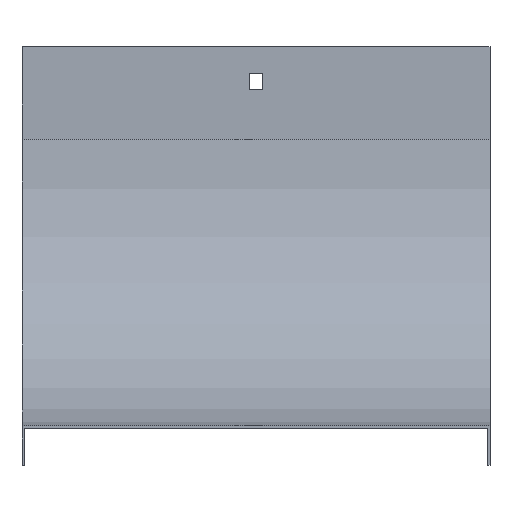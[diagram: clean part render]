
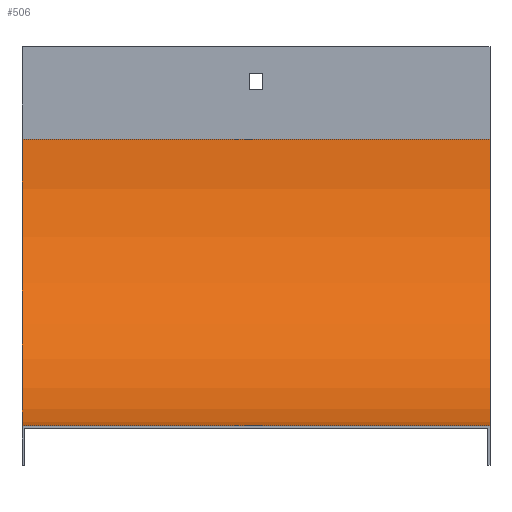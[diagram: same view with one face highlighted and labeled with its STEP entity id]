
A CAD part, top view. The second image highlights one B-rep face of the part: STEP entity #506.
In plain terms, the highlighted cylindrical face has radius 124 mm (diameter 248 mm), a partial arc.
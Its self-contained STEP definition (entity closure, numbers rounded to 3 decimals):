
#7 = ORIENTED_EDGE ( 'NONE', *, *, #377, .F. ) ;
#9 = LINE ( 'NONE', #61, #819 ) ;
#40 = CARTESIAN_POINT ( 'NONE',  ( 101., 124., -40. ) ) ;
#43 = DIRECTION ( 'NONE',  ( 0., 0., -1. ) ) ;
#61 = CARTESIAN_POINT ( 'NONE',  ( 101., 0., -40. ) ) ;
#78 = DIRECTION ( 'NONE',  ( -1., 0., 0. ) ) ;
#103 = EDGE_CURVE ( 'NONE', #298, #843, #675, .T. ) ;
#107 = VERTEX_POINT ( 'NONE', #347 ) ;
#187 = VERTEX_POINT ( 'NONE', #578 ) ;
#203 = EDGE_CURVE ( 'NONE', #298, #107, #621, .T. ) ;
#266 = DIRECTION ( 'NONE',  ( 0., 0., -1. ) ) ;
#270 = DIRECTION ( 'NONE',  ( -1., 0., 0. ) ) ;
#288 = CARTESIAN_POINT ( 'NONE',  ( -101., 124., -164. ) ) ;
#298 = VERTEX_POINT ( 'NONE', #339 ) ;
#335 = ORIENTED_EDGE ( 'NONE', *, *, #659, .T. ) ;
#339 = CARTESIAN_POINT ( 'NONE',  ( 101., 124., -164. ) ) ;
#347 = CARTESIAN_POINT ( 'NONE',  ( 101., 0., -40. ) ) ;
#348 = ORIENTED_EDGE ( 'NONE', *, *, #103, .T. ) ;
#377 = EDGE_CURVE ( 'NONE', #107, #187, #9, .T. ) ;
#397 = CARTESIAN_POINT ( 'NONE',  ( -101., 124., -40. ) ) ;
#424 = DIRECTION ( 'NONE',  ( -1., 0., 0. ) ) ;
#489 = FACE_OUTER_BOUND ( 'NONE', #547, .T. ) ;
#506 = ADVANCED_FACE ( 'NONE', ( #489 ), #754, .F. ) ;
#547 = EDGE_LOOP ( 'NONE', ( #335, #7, #566, #348 ) ) ;
#558 = AXIS2_PLACEMENT_3D ( 'NONE', #397, #270, #266 ) ;
#566 = ORIENTED_EDGE ( 'NONE', *, *, #203, .F. ) ;
#578 = CARTESIAN_POINT ( 'NONE',  ( -101., 0., -40. ) ) ;
#584 = AXIS2_PLACEMENT_3D ( 'NONE', #40, #841, #43 ) ;
#586 = CIRCLE ( 'NONE', #558, 124. ) ;
#621 = CIRCLE ( 'NONE', #584, 124. ) ;
#627 = CARTESIAN_POINT ( 'NONE',  ( 101., 124., -40. ) ) ;
#628 = CARTESIAN_POINT ( 'NONE',  ( 101., 124., -164. ) ) ;
#659 = EDGE_CURVE ( 'NONE', #843, #187, #586, .T. ) ;
#674 = DIRECTION ( 'NONE',  ( -1., 0., 0. ) ) ;
#675 = LINE ( 'NONE', #628, #848 ) ;
#754 = CYLINDRICAL_SURFACE ( 'NONE', #862, 124. ) ;
#819 = VECTOR ( 'NONE', #674, 1000. ) ;
#822 = DIRECTION ( 'NONE',  ( 0., 0., 1. ) ) ;
#841 = DIRECTION ( 'NONE',  ( -1., 0., 0. ) ) ;
#843 = VERTEX_POINT ( 'NONE', #288 ) ;
#848 = VECTOR ( 'NONE', #78, 1000. ) ;
#862 = AXIS2_PLACEMENT_3D ( 'NONE', #627, #424, #822 ) ;
